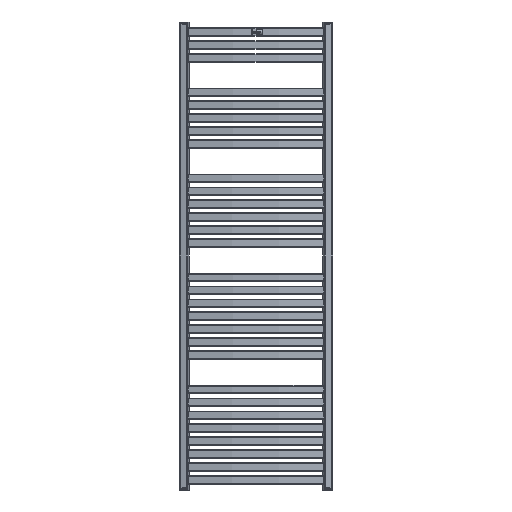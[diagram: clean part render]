
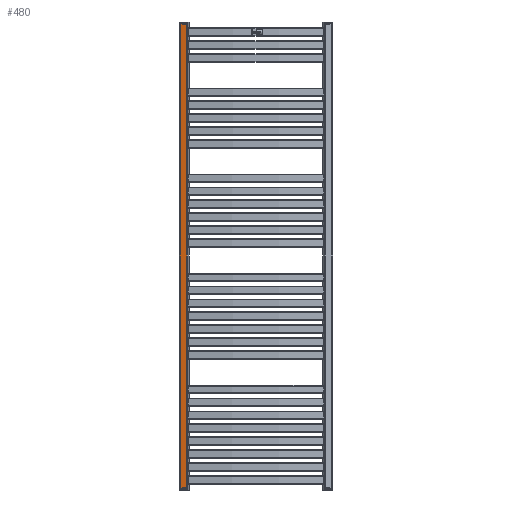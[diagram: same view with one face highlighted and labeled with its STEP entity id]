
A CAD part, front view. The second image highlights one B-rep face of the part: STEP entity #480.
In plain terms, the highlighted planar face has unit normal (-0.205, -0.979, 0) as drawn and (1, 0, 0) by its records, which use the part's own axes.
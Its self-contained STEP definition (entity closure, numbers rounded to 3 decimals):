
#480 = ADVANCED_FACE( '', ( #1207 ), #1208, .T. );
#1207 = FACE_OUTER_BOUND( '', #2265, .T. );
#1208 = PLANE( '', #2266 );
#2265 = EDGE_LOOP( '', ( #3674, #3675, #3676, #3677 ) );
#2266 = AXIS2_PLACEMENT_3D( '', #3678, #3679, #3680 );
#3674 = ORIENTED_EDGE( '', *, *, #6344, .T. );
#3675 = ORIENTED_EDGE( '', *, *, #6364, .T. );
#3676 = ORIENTED_EDGE( '', *, *, #6365, .F. );
#3677 = ORIENTED_EDGE( '', *, *, #6366, .T. );
#3678 = CARTESIAN_POINT( '', ( 15., 1626., -15. ) );
#3679 = DIRECTION( '', ( 1., 0., 0. ) );
#3680 = DIRECTION( '', ( 0., 0., -1. ) );
#6344 = EDGE_CURVE( '', #7722, #7720, #7723, .T. );
#6364 = EDGE_CURVE( '', #7720, #7756, #7757, .T. );
#6365 = EDGE_CURVE( '', #7758, #7756, #7759, .T. );
#6366 = EDGE_CURVE( '', #7758, #7722, #7760, .F. );
#7720 = VERTEX_POINT( '', #9592 );
#7722 = VERTEX_POINT( '', #9594 );
#7723 = LINE( '', #9595, #9596 );
#7756 = VERTEX_POINT( '', #9638 );
#7757 = LINE( '', #9639, #9640 );
#7758 = VERTEX_POINT( '', #9641 );
#7759 = LINE( '', #9642, #9643 );
#7760 = LINE( '', #9644, #9645 );
#9592 = CARTESIAN_POINT( '', ( 15., 1626., 12. ) );
#9594 = CARTESIAN_POINT( '', ( 15., 1626., -12. ) );
#9595 = CARTESIAN_POINT( '', ( 15., 1626., -15. ) );
#9596 = VECTOR( '', #11610, 1000. );
#9638 = CARTESIAN_POINT( '', ( 15., 0., 12. ) );
#9639 = CARTESIAN_POINT( '', ( 15., 1626., 12. ) );
#9640 = VECTOR( '', #11641, 1000. );
#9641 = CARTESIAN_POINT( '', ( 15., 0., -12. ) );
#9642 = CARTESIAN_POINT( '', ( 15., 0., -15. ) );
#9643 = VECTOR( '', #11642, 1000. );
#9644 = CARTESIAN_POINT( '', ( 15., 1626., -12. ) );
#9645 = VECTOR( '', #11643, 1000. );
#11610 = DIRECTION( '', ( 0., 0., 1. ) );
#11641 = DIRECTION( '', ( 0., -1., 0. ) );
#11642 = DIRECTION( '', ( 0., 0., 1. ) );
#11643 = DIRECTION( '', ( 0., -1., 0. ) );
